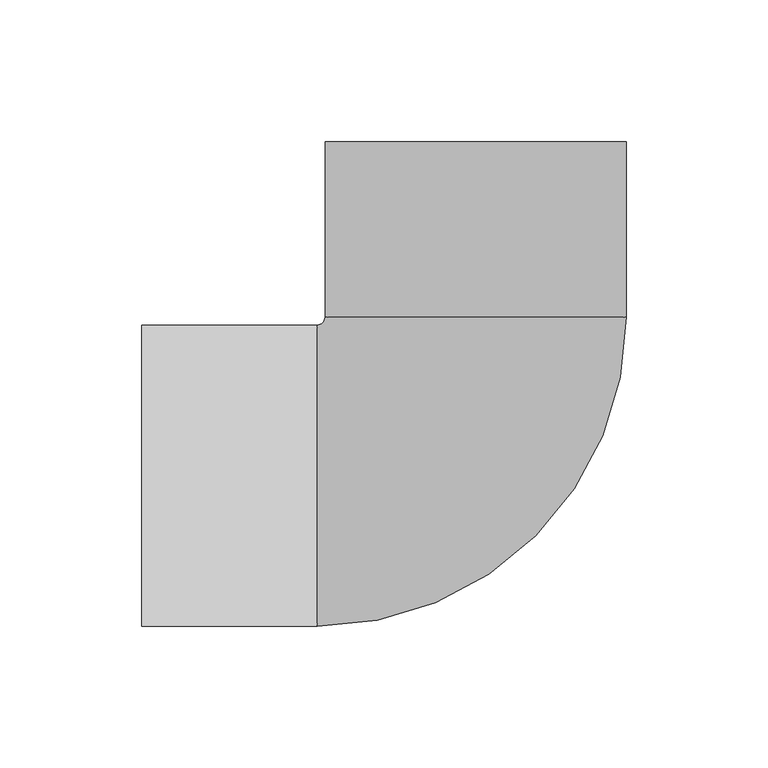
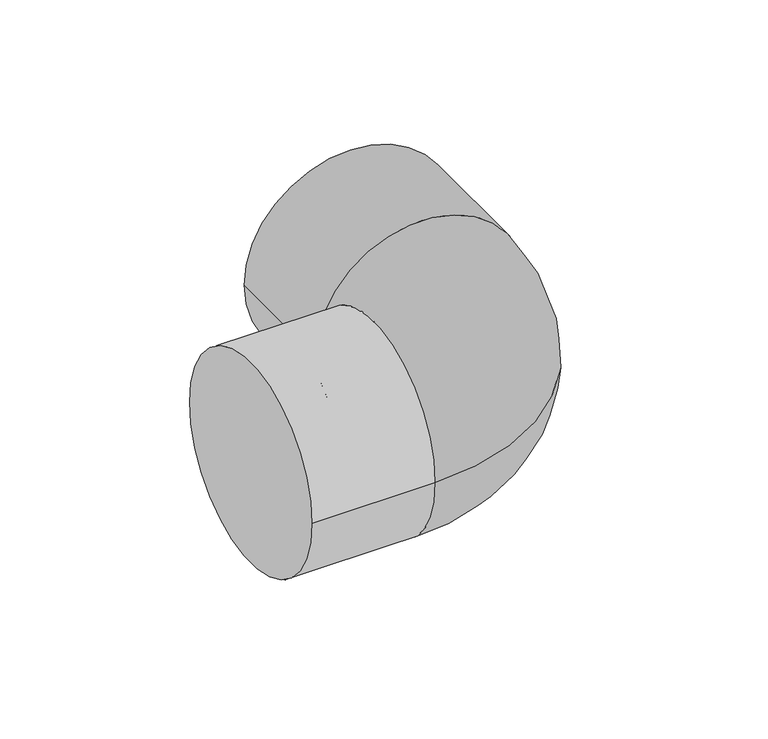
"""IFC4 building model written with IfcOpenShell, lengths in millimetres: pipe fitting geometry, 01051001 : Codos 90º."""

from ifc_helpers import new_model, si_unit, point, frame, origin, place, context, project, spatial, circle_curve, ellipse_curve, trimmed, source, transform, mapped, element, save
from ifc_brep_helpers import plane_surface, cylinder_surface, revolved_surface, advanced_brep


def pipe_fitting_0dd18f57(model_context):
    return source(origin(), model_context, "Body", "AdvancedBrep", [
        advanced_brep(
        [(-56.0, -53.2, 0.0), (53.2, 56.0, 0.0), (-53.2, 56.0, 0.0), (-56.0, 53.2, 0.0), (-53.2, 118.0, 0.0), (53.2, 118.0, 0.0), (-118.0, 53.2, 0.0), (-118.0, -53.2, 0.0)],
        [
            (0, 1, circle_curve(frame((-56.0, 56.0, 0.0), z_axis=(0.0, 0.0, 1.0), x_axis=(1.0, 0.0, 0.0)), 109.2)),
            (1, 2, circle_curve(frame((0.0, 56.0, 0.0), z_axis=(0.0, -1.0, 0.0), x_axis=(1.0, 0.0, 0.0)), 53.2)),
            (2, 3, circle_curve(frame((-56.0, 56.0, 0.0), z_axis=(0.0, 0.0, -1.0), x_axis=(1.0, 0.0, 0.0)), 2.8)),
            (3, 0, circle_curve(frame((-56.0, 0.0, 0.0), z_axis=(1.0, 0.0, 0.0), x_axis=(0.0, -1.0, 0.0)), 53.2)),
            (2, 1, circle_curve(frame((0.0, 56.0, 0.0), z_axis=(0.0, -1.0, 0.0), x_axis=(1.0, 0.0, 0.0)), 53.2)),
            (0, 3, circle_curve(frame((-56.0, 0.0, 0.0), z_axis=(1.0, 0.0, 0.0), x_axis=(0.0, -1.0, 0.0)), 53.2)),
            (4, 5, circle_curve(frame((0.0, 118.0, 0.0), z_axis=(0.0, 1.0, 0.0), x_axis=(1.0, 0.0, 0.0)), 53.2)),
            (5, 4, circle_curve(frame((0.0, 118.0, 0.0), z_axis=(0.0, 1.0, 0.0), x_axis=(1.0, 0.0, 0.0)), 53.2)),
            (4, 2),
            (1, 5),
            (6, 7, circle_curve(frame((-118.0, 0.0, 0.0), z_axis=(-1.0, 0.0, 0.0), x_axis=(0.0, -1.0, 0.0)), 53.2)),
            (7, 6, circle_curve(frame((-118.0, 0.0, 0.0), z_axis=(-1.0, 0.0, 0.0), x_axis=(0.0, -1.0, 0.0)), 53.2)),
            (3, 6),
            (7, 0),
        ],
        [
            revolved_surface(trimmed(ellipse_curve(frame((0.0, 56.0, 0.0), z_axis=(0.0, 1.0, 0.0), x_axis=(1.0, 0.0, 0.0)), 53.2, 53.2), [point((-53.2, 56.0, 0.0))], [point((53.2, 56.0, 0.0))], True, "CARTESIAN"), (-56.0, 56.0, 0.0), (0.0, 0.0, -1.0)),
            revolved_surface(trimmed(ellipse_curve(frame((0.0, 56.0, 0.0), z_axis=(0.0, 1.0, 0.0), x_axis=(1.0, 0.0, 0.0)), 53.2, 53.2), [point((53.2, 56.0, 0.0))], [point((-53.2, 56.0, 0.0))], True, "CARTESIAN"), (-56.0, 56.0, 0.0), (0.0, 0.0, -1.0)),
            plane_surface(frame((0.0, 118.0, 0.0), z_axis=(0.0, 1.0, 0.0), x_axis=(0.0, 0.0, 1.0))),
            cylinder_surface(frame((0.0, 118.0, 0.0), z_axis=(0.0, 1.0, 0.0), x_axis=(1.0, 0.0, 0.0)), 53.2),
            plane_surface(frame((-118.0, 0.0, 0.0), z_axis=(-1.0, 0.0, 0.0), x_axis=(0.0, 0.0, 1.0))),
            cylinder_surface(frame((-56.0, 0.0, 0.0), z_axis=(1.0, 0.0, 0.0), x_axis=(0.0, -1.0, 0.0)), 53.2),
        ],
        [
            (0, [[1, 2, 3, 4]]),
            (1, [[-3, 5, -1, 6]]),
            (2, [[7, 8]]),
            (3, [[-7, 9, -2, 10]]),
            (3, [[-8, -10, -5, -9]]),
            (4, [[11, 12]]),
            (5, [[-4, 13, -12, 14]]),
            (5, [[-6, -14, -11, -13]]),
        ],
    ),
    ])


if __name__ == "__main__":
    model = new_model("IFC4")
    model_context = context("Model", 3, world=origin())
    ifc_project = project(units=[si_unit("LENGTHUNIT", "METRE", prefix="MILLI")], contexts=[model_context])
    site = spatial("IfcSite", under=ifc_project)
    building = spatial("IfcBuilding", under=site)
    placement = place(None, origin())
    pipe_fitting_shape = pipe_fitting_0dd18f57(model_context)
    element("IfcPipeFitting", 1, ObjectType="01051001 : Codos 90º", at=placement, inside=building, context=model_context, shape_type="MappedRepresentation", body=[
        mapped(pipe_fitting_shape, transform((0.0, 0.0, 0.0), x_axis=(1.0, 0.0, 0.0), y_axis=(0.0, 1.0, 0.0), z_axis=(0.0, 0.0, 1.0))),
    ])
    save(model, "model.ifc")
